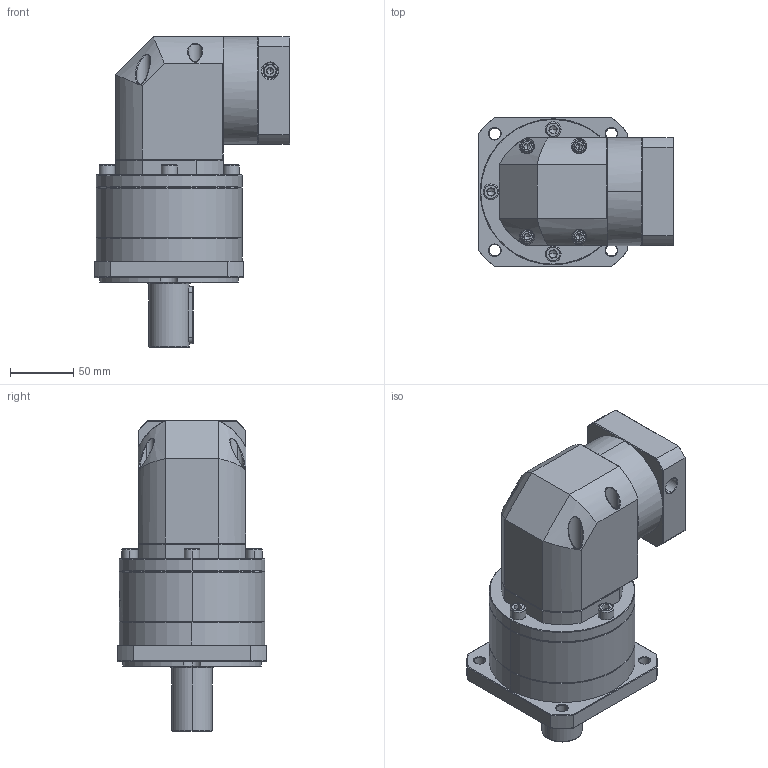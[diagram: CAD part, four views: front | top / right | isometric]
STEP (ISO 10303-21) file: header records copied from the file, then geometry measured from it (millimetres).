
FILE_DESCRIPTION (( 'STEP AP214' ), '1' );
FILE_NAME ('ZFR120A-D32-L2-P2-14-50-70-M4.step', '2023-08-27T09:17:48', ( '' ), ( '' ), 'SwSTEP 2.0', 'SolidWorks 2016', '' );
FILE_SCHEMA (( 'AUTOMOTIVE_DESIGN' ));
Length unit declared in the file: millimetre
Products named in the file (1): ZFR120A-D32-L2-P2-14-50-70-M4
Bounding box: 154.1 x 118 x 245 mm (x, y, z)
Volume: 1895576 mm3; surface area: 171038 mm2
Topology: 6 solids, 6 shells, 2243 faces, 5814 edges, 3681 vertices
Faces by surface type: plane 1147, bspline 431, cylinder 330, cone 321, torus 14
Entity records: 114604 total; most frequent: CARTESIAN_POINT 40019, ORIENTED_EDGE 11536, DIRECTION 8670, EDGE_CURVE 5768, VERTEX_POINT 3681, LINE 3184, VECTOR 3184, AXIS2_PLACEMENT_3D 2743
